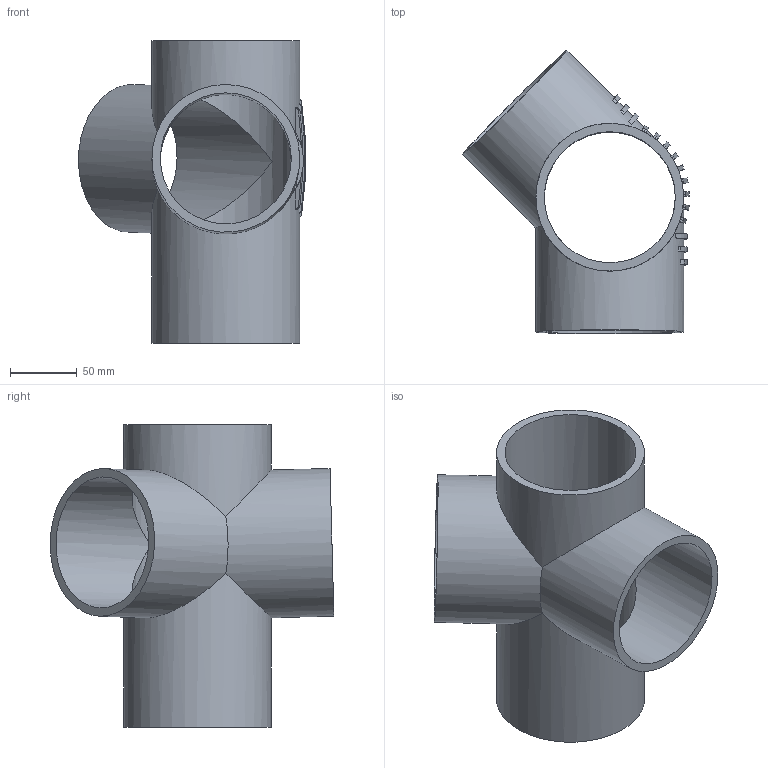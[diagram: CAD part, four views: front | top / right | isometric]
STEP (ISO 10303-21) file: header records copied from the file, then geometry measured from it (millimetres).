
FILE_DESCRIPTION(/* description */ (''),/* implementation_level */ '2;1');
FILE_NAME(/* name */ 'H:\Geberit-Teile\Export\Bogen-Eckabzweig_ART\stp\310105.stp',/* time_stamp */ '2015-03-18T16:20:43+01:00',/* author */ ('seihe2'),/* organization */ (''),/* preprocessor_version */ 'ST-DEVELOPER v15.2',/* originating_system */ 'Autodesk Inventor 2014',/* authorisation */ '');
FILE_SCHEMA (('AUTOMOTIVE_DESIGN { 1 0 10303 214 3 1 1 }'));
Length unit declared in the file: millimetre
Products named in the file (1): 310105
Bounding box: 169.59 x 211.98 x 226 mm (x, y, z)
Volume: 612135.9 mm3; surface area: 211484.8 mm2
Topology: 6 solids, 6 shells, 125 faces, 304 edges, 192 vertices
Faces by surface type: cylinder 65, plane 60
Full cylindrical faces by diameter (mm): 97.9 x3, 110.4 x3
Entity records: 3748 total; most frequent: DIRECTION 687, CARTESIAN_POINT 611, ORIENTED_EDGE 592, EDGE_CURVE 283, AXIS2_PLACEMENT_3D 280, VERTEX_POINT 182, EDGE_LOOP 148, LINE 127
